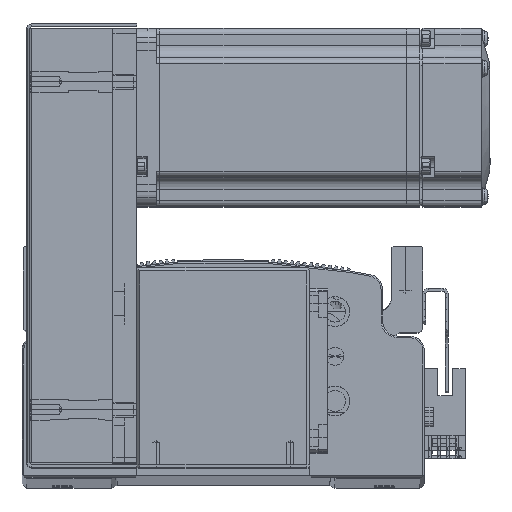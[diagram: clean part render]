
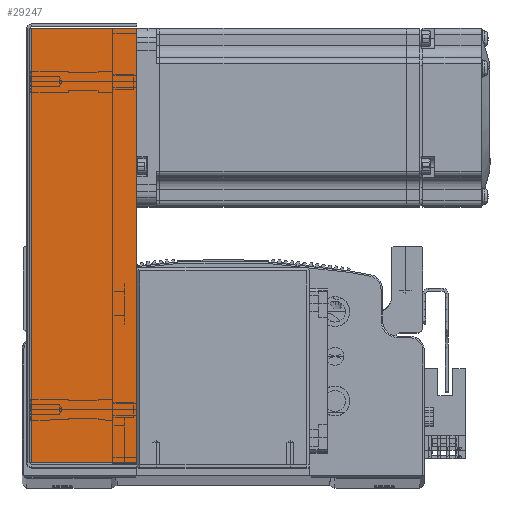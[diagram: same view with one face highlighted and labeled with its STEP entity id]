
A CAD part, top view. The second image highlights one B-rep face of the part: STEP entity #29247.
In plain terms, the highlighted planar face has unit normal (0, 0, 1).
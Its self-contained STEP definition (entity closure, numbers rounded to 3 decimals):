
#4740 = VECTOR ( 'NONE', #5622, 1000. ) ;
#4747 = LINE ( 'NONE', #5623, #4740 ) ;
#4764 = LINE ( 'NONE', #5595, #4767 ) ;
#4767 = VECTOR ( 'NONE', #5636, 1000. ) ;
#4844 = LINE ( 'NONE', #5755, #4863 ) ;
#4846 = VECTOR ( 'NONE', #5766, 1000. ) ;
#4849 = LINE ( 'NONE', #5724, #4846 ) ;
#4863 = VECTOR ( 'NONE', #5765, 1000. ) ;
#5595 = CARTESIAN_POINT ( 'NONE',  ( -74.5, 0.737, 34.5 ) ) ;
#5622 = DIRECTION ( 'NONE',  ( 0., 1., 0. ) ) ;
#5623 = CARTESIAN_POINT ( 'NONE',  ( -72.793, 0., 34.5 ) ) ;
#5636 = DIRECTION ( 'NONE',  ( -1., 0., 0. ) ) ;
#5724 = CARTESIAN_POINT ( 'NONE',  ( 72.793, 0., 34.5 ) ) ;
#5755 = CARTESIAN_POINT ( 'NONE',  ( 0., 36., 34.5 ) ) ;
#5765 = DIRECTION ( 'NONE',  ( -1., 0., 0. ) ) ;
#5766 = DIRECTION ( 'NONE',  ( 0., 1., 0. ) ) ;
#14980 = AXIS2_PLACEMENT_3D ( 'NONE', #51064, #51040, #51065 ) ;
#24434 = VERTEX_POINT ( 'NONE', #50622 ) ;
#24507 = VERTEX_POINT ( 'NONE', #50641 ) ;
#24510 = VERTEX_POINT ( 'NONE', #50605 ) ;
#24533 = VERTEX_POINT ( 'NONE', #50722 ) ;
#29247 = ADVANCED_FACE ( 'NONE', ( #31628 ), #51073, .F. ) ;
#31628 = FACE_OUTER_BOUND ( 'NONE', #85907, .T. ) ;
#50605 = CARTESIAN_POINT ( 'NONE',  ( -72.793, 0.737, 34.5 ) ) ;
#50622 = CARTESIAN_POINT ( 'NONE',  ( -72.793, 36., 34.5 ) ) ;
#50641 = CARTESIAN_POINT ( 'NONE',  ( 72.793, 36., 34.5 ) ) ;
#50722 = CARTESIAN_POINT ( 'NONE',  ( 72.793, 0.737, 34.5 ) ) ;
#51040 = DIRECTION ( 'NONE',  ( 0., 0., -1. ) ) ;
#51064 = CARTESIAN_POINT ( 'NONE',  ( 0., 0., 34.5 ) ) ;
#51065 = DIRECTION ( 'NONE',  ( -1., 0., 0. ) ) ;
#51073 = PLANE ( 'NONE',  #14980 ) ;
#59129 = EDGE_CURVE ( 'NONE', #24510, #24434, #4747, .T. ) ;
#59155 = EDGE_CURVE ( 'NONE', #24533, #24510, #4764, .T. ) ;
#59212 = EDGE_CURVE ( 'NONE', #24507, #24434, #4844, .T. ) ;
#59226 = EDGE_CURVE ( 'NONE', #24533, #24507, #4849, .T. ) ;
#69397 = ORIENTED_EDGE ( 'NONE', *, *, #59212, .T. ) ;
#69410 = ORIENTED_EDGE ( 'NONE', *, *, #59155, .F. ) ;
#69412 = ORIENTED_EDGE ( 'NONE', *, *, #59129, .F. ) ;
#69414 = ORIENTED_EDGE ( 'NONE', *, *, #59226, .T. ) ;
#85907 = EDGE_LOOP ( 'NONE', ( #69410, #69414, #69397, #69412 ) ) ;
